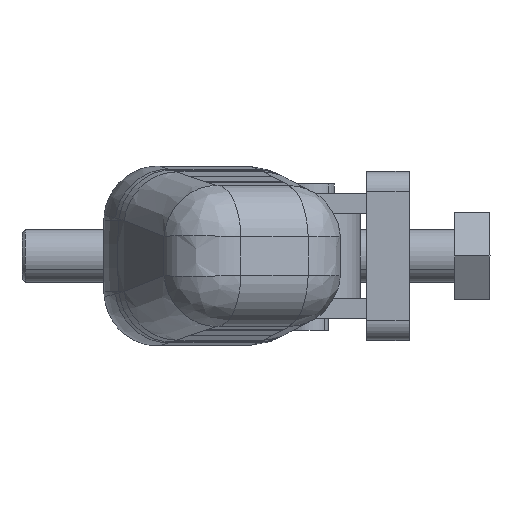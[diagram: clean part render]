
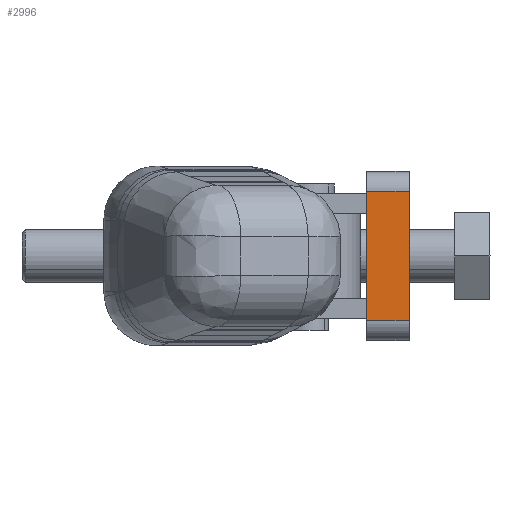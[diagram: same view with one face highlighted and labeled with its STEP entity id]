
A CAD part, left-side view. The second image highlights one B-rep face of the part: STEP entity #2996.
In plain terms, the highlighted planar face has unit normal (-1, 0, 0).
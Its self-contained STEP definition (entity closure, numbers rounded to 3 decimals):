
#728 = PLANE ( 'NONE',  #3702 ) ;
#770 = CARTESIAN_POINT ( 'NONE',  ( -42., 0., 9.7 ) ) ;
#1336 = CARTESIAN_POINT ( 'NONE',  ( -42., -6.35, 9.7 ) ) ;
#2480 = DIRECTION ( 'NONE',  ( 0., 0., 1. ) ) ;
#2996 = ADVANCED_FACE ( 'NONE', ( #21899 ), #728, .T. ) ;
#3069 = CARTESIAN_POINT ( 'NONE',  ( -42., -6.35, -9.7 ) ) ;
#3702 = AXIS2_PLACEMENT_3D ( 'NONE', #9394, #12887, #2480 ) ;
#3820 = LINE ( 'NONE', #20108, #7889 ) ;
#4681 = ORIENTED_EDGE ( 'NONE', *, *, #17246, .T. ) ;
#4881 = EDGE_CURVE ( 'NONE', #15279, #14074, #12332, .T. ) ;
#5339 = VECTOR ( 'NONE', #15282, 1000. ) ;
#5389 = EDGE_LOOP ( 'NONE', ( #19769, #9309, #4681, #10011 ) ) ;
#7013 = CARTESIAN_POINT ( 'NONE',  ( -42., 0., -9.7 ) ) ;
#7412 = VECTOR ( 'NONE', #8292, 1000. ) ;
#7889 = VECTOR ( 'NONE', #9702, 1000. ) ;
#8292 = DIRECTION ( 'NONE',  ( 0., 1., 0. ) ) ;
#9083 = CARTESIAN_POINT ( 'NONE',  ( -42., -6.35, 9.7 ) ) ;
#9309 = ORIENTED_EDGE ( 'NONE', *, *, #14151, .F. ) ;
#9394 = CARTESIAN_POINT ( 'NONE',  ( -42., -6.35, -9.7 ) ) ;
#9702 = DIRECTION ( 'NONE',  ( 0., 0., 1. ) ) ;
#10011 = ORIENTED_EDGE ( 'NONE', *, *, #11225, .T. ) ;
#10442 = CARTESIAN_POINT ( 'NONE',  ( -42., 0., -9.7 ) ) ;
#11225 = EDGE_CURVE ( 'NONE', #22539, #14074, #19200, .T. ) ;
#12332 = LINE ( 'NONE', #7013, #12867 ) ;
#12867 = VECTOR ( 'NONE', #19176, 1000. ) ;
#12887 = DIRECTION ( 'NONE',  ( -1., 0., 0. ) ) ;
#14074 = VERTEX_POINT ( 'NONE', #770 ) ;
#14151 = EDGE_CURVE ( 'NONE', #15413, #15279, #17769, .T. ) ;
#15279 = VERTEX_POINT ( 'NONE', #10442 ) ;
#15282 = DIRECTION ( 'NONE',  ( 0., 1., 0. ) ) ;
#15413 = VERTEX_POINT ( 'NONE', #17729 ) ;
#17246 = EDGE_CURVE ( 'NONE', #15413, #22539, #3820, .T. ) ;
#17729 = CARTESIAN_POINT ( 'NONE',  ( -42., -6.35, -9.7 ) ) ;
#17769 = LINE ( 'NONE', #3069, #7412 ) ;
#19176 = DIRECTION ( 'NONE',  ( 0., 0., 1. ) ) ;
#19200 = LINE ( 'NONE', #1336, #5339 ) ;
#19769 = ORIENTED_EDGE ( 'NONE', *, *, #4881, .F. ) ;
#20108 = CARTESIAN_POINT ( 'NONE',  ( -42., -6.35, -9.7 ) ) ;
#21899 = FACE_OUTER_BOUND ( 'NONE', #5389, .T. ) ;
#22539 = VERTEX_POINT ( 'NONE', #9083 ) ;
